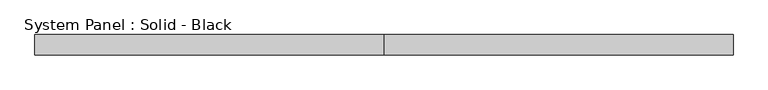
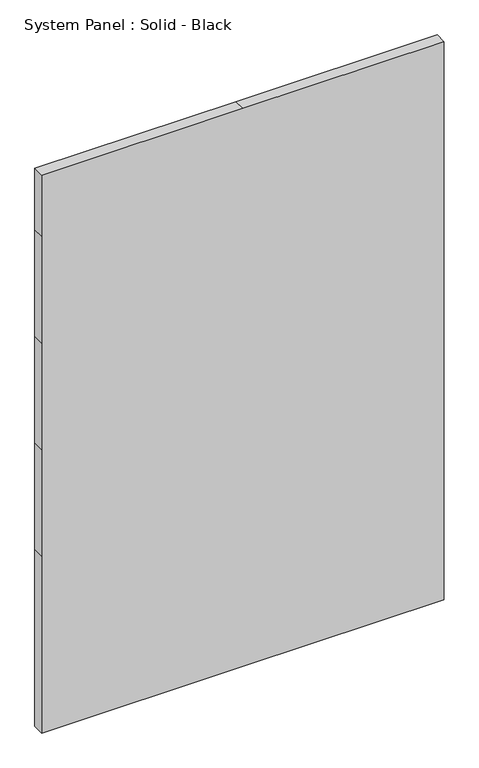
"""IFC4 building model written with IfcOpenShell, lengths in millimetres: plate geometry, System Panel : Solid - Black."""

import ifcopenshell
import ifcopenshell.guid

model = None  # the IFC model being written
_history = None  # IfcOwnerHistory: only IFC2X3 demands one
_inside = {}  # id of a spatial element -> (the spatial element, [elements in it])
_under = {}  # id of a project, library or spatial element -> (it, [spatial elements below it])
_declared = {}  # id of a project -> (the project, [libraries it declares])
_typed = {}  # id of a type object -> (the type object, [elements of that type])
_made_of = {}  # id of a material, layer set ... -> (it, [elements and type objects made of it])


def new_model(schema):
    """Start an empty IFC model of exactly this schema.

    Asked for "IFC4X3", IfcOpenShell would pick the latest addendum, in which some entities
    have other attributes; the version numbers below select the first issue.
    IFC2X3 requires an IfcOwnerHistory on every rooted entity: one is made here for all.
    """
    global model, _history
    if schema == "IFC4X3":
        model = ifcopenshell.file(schema_version=(4, 3, 0, 0))
    else:
        model = ifcopenshell.file(schema=schema)
    _inside.clear()
    _under.clear()
    _declared.clear()
    _typed.clear()
    _made_of.clear()
    _history = None
    if model.schema == "IFC2X3":
        org = make("IfcOrganization", Name="unknown")
        user = make(
            "IfcPersonAndOrganization",
            ThePerson=make("IfcPerson", FamilyName="unknown"),
            TheOrganization=org,
        )
        app = make(
            "IfcApplication",
            ApplicationDeveloper=org,
            Version="unknown",
            ApplicationFullName="unknown",
            ApplicationIdentifier="unknown",
        )
        _history = make(
            "IfcOwnerHistory",
            OwningUser=user,
            OwningApplication=app,
            ChangeAction="ADDED",
            CreationDate=0,
        )
    return model


def make(cls, **values):
    """One entity of the class cls with the attributes given. An attribute that is None is left unset."""
    return model.create_entity(
        cls, **{name: value for name, value in values.items() if value is not None}
    )


def rooted(cls, **values):
    """An entity with a GlobalId (a new one), such as an element, a storey or a relation."""
    return make(cls, GlobalId=ifcopenshell.guid.new(), OwnerHistory=_history, **values)


def si_unit(unit_type, name, prefix=None):
    """IfcSIUnit, for example si_unit("LENGTHUNIT", "METRE", prefix="MILLI")."""
    return make("IfcSIUnit", UnitType=unit_type, Prefix=prefix, Name=name)


def assignment(units):
    """IfcUnitAssignment: the units of a project."""
    return None if units is None else make("IfcUnitAssignment", Units=units)


def point(xyz):
    """IfcCartesianPoint."""
    return None if xyz is None else make("IfcCartesianPoint", Coordinates=xyz)


def direction(xyz):
    """IfcDirection."""
    return None if xyz is None else make("IfcDirection", DirectionRatios=xyz)


def frame(location, z_axis=None, x_axis=None):
    """IfcAxis2Placement3D, a coordinate frame: its origin and axes. An axis left out is left unset."""
    return make(
        "IfcAxis2Placement3D",
        Location=point(location),
        Axis=direction(z_axis),
        RefDirection=direction(x_axis),
    )


def origin():
    """The frame at (0, 0, 0) with its axes left unset."""
    return frame((0.0, 0.0, 0.0))


def place(relative_to, where):
    """IfcLocalPlacement: puts the frame where relative to a parent placement (None: the world)."""
    return make(
        "IfcLocalPlacement", PlacementRelTo=relative_to, RelativePlacement=where
    )


def context(
    kind, dimensions, precision=None, world=None, true_north=None, identifier=None
):
    """IfcGeometricRepresentationContext, for example the 3D "Model" context."""
    return make(
        "IfcGeometricRepresentationContext",
        ContextIdentifier=identifier,
        ContextType=kind,
        CoordinateSpaceDimension=dimensions,
        Precision=precision,
        WorldCoordinateSystem=world,
        TrueNorth=true_north,
    )


def project(units=None, contexts=None):
    """IfcProject with its units and contexts."""
    return rooted(
        "IfcProject",
        Name="project",
        RepresentationContexts=contexts,
        UnitsInContext=assignment(units),
    )


def spatial(cls, under=None, at=None, **own):
    """A site, building, storey or space (cls), placed at a placement, below another one or the project."""
    s = rooted(cls, ObjectPlacement=at, **own)
    if under is not None:
        _under.setdefault(under.id(), (under, []))[1].append(s)
    return s


def polyline(points):
    """IfcPolyline through the points."""
    return make("IfcPolyline", Points=[point(p) for p in points])


def outline(outer, holes=None, kind="AREA"):
    """IfcArbitraryClosedProfileDef: a profile drawn as a closed curve; with holes, ...WithVoids."""
    if holes is None:
        return make("IfcArbitraryClosedProfileDef", ProfileType=kind, OuterCurve=outer)
    return make(
        "IfcArbitraryProfileDefWithVoids",
        ProfileType=kind,
        OuterCurve=outer,
        InnerCurves=holes,
    )


def extrude(swept, where, along, depth):
    """IfcExtrudedAreaSolid: the profile swept, set in the frame where, extruded along a direction by depth."""
    return make(
        "IfcExtrudedAreaSolid",
        SweptArea=swept,
        Position=where,
        ExtrudedDirection=direction(along),
        Depth=depth,
    )


def shape(context_of_items, identifier, shape_type, items):
    """IfcShapeRepresentation: the items that make up one representation, for example the "Body"."""
    return make(
        "IfcShapeRepresentation",
        ContextOfItems=context_of_items,
        RepresentationIdentifier=identifier,
        RepresentationType=shape_type,
        Items=items,
    )


def source(mapping_origin, context_of_items, identifier, shape_type, items):
    """IfcRepresentationMap: a shape defined once, which mapped items show again and again."""
    return make(
        "IfcRepresentationMap",
        MappingOrigin=mapping_origin,
        MappedRepresentation=shape(context_of_items, identifier, shape_type, items),
    )


def transform(
    local_origin,
    x_axis=None,
    y_axis=None,
    z_axis=None,
    scale=None,
    scale2=None,
    scale3=None,
    uniform=True,
):
    """IfcCartesianTransformationOperator3D, or its non-uniform kind. x_axis, y_axis, z_axis: its Axis1, 2, 3."""
    if uniform:
        return make(
            "IfcCartesianTransformationOperator3D",
            Axis1=direction(x_axis),
            Axis2=direction(y_axis),
            LocalOrigin=point(local_origin),
            Scale=scale,
            Axis3=direction(z_axis),
        )
    return make(
        "IfcCartesianTransformationOperator3DnonUniform",
        Axis1=direction(x_axis),
        Axis2=direction(y_axis),
        LocalOrigin=point(local_origin),
        Scale=scale,
        Axis3=direction(z_axis),
        Scale2=scale2,
        Scale3=scale3,
    )


def mapped(mapping_source, mapping_target):
    """IfcMappedItem: shows the shape of a source again, moved by a transform."""
    return make(
        "IfcMappedItem", MappingSource=mapping_source, MappingTarget=mapping_target
    )


def made_of(thing, what):
    """Note that an element or type object is made of a material, layer set ...; save() writes the relation."""
    if what is not None:
        _made_of.setdefault(what.id(), (what, []))[1].append(thing)
    return thing


def element(
    cls,
    number,
    at=None,
    inside=None,
    cuts=None,
    type_object=None,
    material=None,
    context=None,
    identifier="Body",
    shape_type=None,
    held_by="IfcProductDefinitionShape",
    body=None,
    shapes=None,
    **own,
):
    """One element of the class cls, such as IfcWall. Its Tag is "e" and its number.

    at: its placement. inside: the storey or other place that contains it. cuts: it is an
    opening in that element (IfcRelVoidsElement). A single representation is given by context,
    identifier, shape_type and body (its items); several are given by shapes. held_by: the class
    of the entity that holds the representations. save() writes the other relations.
    """
    e = rooted(cls, Tag="e%d" % number, ObjectPlacement=at, **own)
    if body is not None:
        shapes = [shape(context, identifier, shape_type, body)]
    if shapes is not None:
        e.Representation = make(held_by, Representations=shapes)
    if inside is not None:
        _inside.setdefault(inside.id(), (inside, []))[1].append(e)
    if cuts is not None:
        rooted(
            "IfcRelVoidsElement", RelatingBuildingElement=cuts, RelatedOpeningElement=e
        )
    if type_object is not None:
        _typed.setdefault(type_object.id(), (type_object, []))[1].append(e)
    return made_of(e, material)


def aggregate(whole, parts):
    """IfcRelAggregates: a whole, such as a stair, and the parts it consists of."""
    return rooted("IfcRelAggregates", RelatingObject=whole, RelatedObjects=parts)


def save(model, path):
    """Write the relations noted so far, then the file.

    IfcRelAggregates (storeys below a building ...), IfcRelContainedInSpatialStructure (elements
    in a storey), IfcRelDefinesByType, IfcRelAssociatesMaterial and IfcRelDeclares: one each for
    every whole, place, type object, material and project.
    """
    for whole, parts in _under.values():
        aggregate(whole, parts)
    for where, things in _inside.values():
        rooted(
            "IfcRelContainedInSpatialStructure",
            RelatedElements=things,
            RelatingStructure=where,
        )
    for kind, things in _typed.values():
        rooted("IfcRelDefinesByType", RelatedObjects=things, RelatingType=kind)
    for what, things in _made_of.values():
        rooted("IfcRelAssociatesMaterial", RelatedObjects=things, RelatingMaterial=what)
    for by, libraries in _declared.values():
        rooted("IfcRelDeclares", RelatingContext=by, RelatedDefinitions=libraries)
    model.write(path)


def system_panel_solid_black_3651c355(model_context):
    return source(origin(), model_context, "Body", "SweptSolid", [
        extrude(outline(polyline([(0.0, -1089.66), (0.0, 0.0), (0.0, 1089.66), (1011.6608166, 1089.66), (1621.2608166, 1089.66), (2230.8608166, 1089.66), (2840.4608166, 1089.66), (3192.0391834, 1089.66), (3192.0391834, 0.0), (3192.0391834, -1089.66), (2840.4608166, -1089.66), (2230.8608166, -1089.66), (1621.2608166, -1089.66), (1011.6608166, -1089.66), (0.0, -1089.66)])), frame((0.0, -44.45, 0.0), z_axis=(0.0, 1.0, 0.0), x_axis=(0.0, 0.0, 1.0)), (0.0, 0.0, 1.0), 63.5),
    ])


if __name__ == "__main__":
    model = new_model("IFC4")
    model_context = context("Model", 3, world=origin())
    ifc_project = project(units=[si_unit("LENGTHUNIT", "METRE", prefix="MILLI")], contexts=[model_context])
    site = spatial("IfcSite", under=ifc_project)
    building = spatial("IfcBuilding", under=site)
    placement = place(None, origin())
    system_panel_solid_black_shape = system_panel_solid_black_3651c355(model_context)
    element("IfcPlate", 1, ObjectType="System Panel : Solid - Black", at=placement, inside=building, context=model_context, shape_type="MappedRepresentation", body=[
        mapped(system_panel_solid_black_shape, transform((0.0, 0.0, 0.0), x_axis=(1.0, 0.0, 0.0), y_axis=(0.0, 1.0, 0.0), z_axis=(0.0, 0.0, 1.0))),
    ])
    save(model, "model.ifc")
